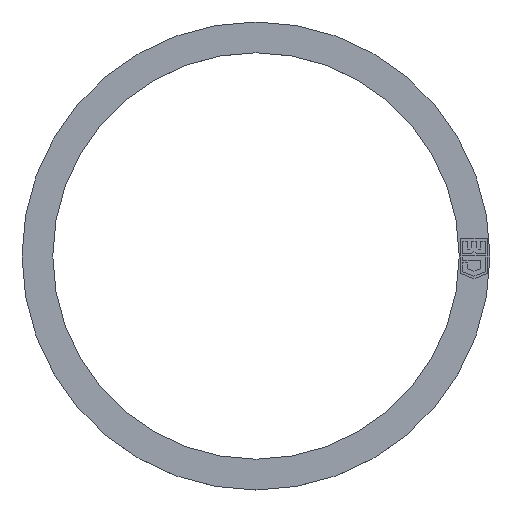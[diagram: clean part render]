
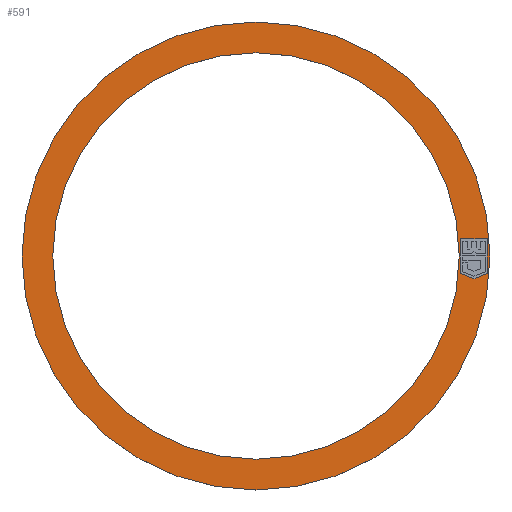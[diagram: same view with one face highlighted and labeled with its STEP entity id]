
A CAD part, top view. The second image highlights one B-rep face of the part: STEP entity #591.
In plain terms, the highlighted planar face has unit normal (0, 0, 1).
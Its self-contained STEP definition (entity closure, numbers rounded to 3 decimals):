
#561 = ORIENTED_EDGE ( 'NONE', *, *, #619, .T. ) ;
#562 = EDGE_CURVE ( 'NONE', #593, #615, #1078, .T. ) ;
#563 = EDGE_LOOP ( 'NONE', ( #592, #565 ) ) ;
#565 = ORIENTED_EDGE ( 'NONE', *, *, #603, .T. ) ;
#566 = EDGE_CURVE ( 'NONE', #613, #601, #1073, .T. ) ;
#568 = EDGE_LOOP ( 'NONE', ( #622, #569 ) ) ;
#569 = ORIENTED_EDGE ( 'NONE', *, *, #618, .F. ) ;
#574 = VERTEX_POINT ( 'NONE', #1125 ) ;
#578 = ORIENTED_EDGE ( 'NONE', *, *, #579, .T. ) ;
#579 = EDGE_CURVE ( 'NONE', #574, #621, #1105, .T. ) ;
#580 = ORIENTED_EDGE ( 'NONE', *, *, #583, .T. ) ;
#583 = EDGE_CURVE ( 'NONE', #615, #585, #1101, .T. ) ;
#585 = VERTEX_POINT ( 'NONE', #1175 ) ;
#591 = ADVANCED_FACE ( 'NONE', ( #1086, #1082, #1081 ), #1080, .T. ) ;
#592 = ORIENTED_EDGE ( 'NONE', *, *, #566, .T. ) ;
#593 = VERTEX_POINT ( 'NONE', #1089 ) ;
#601 = VERTEX_POINT ( 'NONE', #1143 ) ;
#603 = EDGE_CURVE ( 'NONE', #601, #613, #1100, .T. ) ;
#607 = EDGE_CURVE ( 'NONE', #608, #609, #1094, .T. ) ;
#608 = VERTEX_POINT ( 'NONE', #1065 ) ;
#609 = VERTEX_POINT ( 'NONE', #1064 ) ;
#613 = VERTEX_POINT ( 'NONE', #1162 ) ;
#615 = VERTEX_POINT ( 'NONE', #1161 ) ;
#617 = EDGE_LOOP ( 'NONE', ( #561, #620, #580, #641, #578 ) ) ;
#618 = EDGE_CURVE ( 'NONE', #609, #608, #1159, .T. ) ;
#619 = EDGE_CURVE ( 'NONE', #621, #593, #1198, .T. ) ;
#620 = ORIENTED_EDGE ( 'NONE', *, *, #562, .T. ) ;
#621 = VERTEX_POINT ( 'NONE', #1194 ) ;
#622 = ORIENTED_EDGE ( 'NONE', *, *, #607, .F. ) ;
#641 = ORIENTED_EDGE ( 'NONE', *, *, #658, .T. ) ;
#658 = EDGE_CURVE ( 'NONE', #585, #574, #1226, .T. ) ;
#1064 = CARTESIAN_POINT ( 'NONE',  ( 16.5, 0., 0.8 ) ) ;
#1065 = CARTESIAN_POINT ( 'NONE',  ( -16.5, 0., 0.8 ) ) ;
#1066 = DIRECTION ( 'NONE',  ( 1., 0., 0. ) ) ;
#1067 = DIRECTION ( 'NONE',  ( 0., 0., 1. ) ) ;
#1068 = CARTESIAN_POINT ( 'NONE',  ( 0., 0., 0.8 ) ) ;
#1069 = AXIS2_PLACEMENT_3D ( 'NONE', #1068, #1067, #1066 ) ;
#1071 = CARTESIAN_POINT ( 'NONE',  ( 0., 0., 0.8 ) ) ;
#1072 = AXIS2_PLACEMENT_3D ( 'NONE', #1071, #1135, #1134 ) ;
#1073 = CIRCLE ( 'NONE', #1072, 19. ) ;
#1078 = LINE ( 'NONE', #1182, #1181 ) ;
#1080 = PLANE ( 'NONE',  #1093 ) ;
#1081 = FACE_BOUND ( 'NONE', #617, .T. ) ;
#1082 = FACE_OUTER_BOUND ( 'NONE', #563, .T. ) ;
#1086 = FACE_BOUND ( 'NONE', #568, .T. ) ;
#1089 = CARTESIAN_POINT ( 'NONE',  ( 17.7, -1.847, 0.8 ) ) ;
#1090 = DIRECTION ( 'NONE',  ( 1., 0., 0. ) ) ;
#1091 = DIRECTION ( 'NONE',  ( 0., 0., 1. ) ) ;
#1092 = CARTESIAN_POINT ( 'NONE',  ( 0., 0., 0.8 ) ) ;
#1093 = AXIS2_PLACEMENT_3D ( 'NONE', #1092, #1091, #1090 ) ;
#1094 = CIRCLE ( 'NONE', #1069, 16.5 ) ;
#1096 = DIRECTION ( 'NONE',  ( 1., 0., 0. ) ) ;
#1097 = DIRECTION ( 'NONE',  ( 0., 0., 1. ) ) ;
#1098 = CARTESIAN_POINT ( 'NONE',  ( 0., 0., 0.8 ) ) ;
#1099 = AXIS2_PLACEMENT_3D ( 'NONE', #1098, #1097, #1096 ) ;
#1100 = CIRCLE ( 'NONE', #1099, 19. ) ;
#1101 = LINE ( 'NONE', #1178, #1177 ) ;
#1102 = DIRECTION ( 'NONE',  ( 0., -1., 0. ) ) ;
#1103 = VECTOR ( 'NONE', #1102, 1000. ) ;
#1104 = CARTESIAN_POINT ( 'NONE',  ( 18.795, 1.393, 0.8 ) ) ;
#1105 = LINE ( 'NONE', #1104, #1103 ) ;
#1125 = CARTESIAN_POINT ( 'NONE',  ( 18.795, 1.393, 0.8 ) ) ;
#1134 = DIRECTION ( 'NONE',  ( 1., 0., 0. ) ) ;
#1135 = DIRECTION ( 'NONE',  ( 0., 0., 1. ) ) ;
#1143 = CARTESIAN_POINT ( 'NONE',  ( 19., 0., 0.8 ) ) ;
#1155 = DIRECTION ( 'NONE',  ( 1., 0., 0. ) ) ;
#1156 = DIRECTION ( 'NONE',  ( 0., 0., 1. ) ) ;
#1157 = CARTESIAN_POINT ( 'NONE',  ( 0., 0., 0.8 ) ) ;
#1158 = AXIS2_PLACEMENT_3D ( 'NONE', #1157, #1156, #1155 ) ;
#1159 = CIRCLE ( 'NONE', #1158, 16.5 ) ;
#1161 = CARTESIAN_POINT ( 'NONE',  ( 16.605, -1.393, 0.8 ) ) ;
#1162 = CARTESIAN_POINT ( 'NONE',  ( -19., 0., 0.8 ) ) ;
#1175 = CARTESIAN_POINT ( 'NONE',  ( 16.605, 1.393, 0.8 ) ) ;
#1176 = DIRECTION ( 'NONE',  ( 0., 1., 0. ) ) ;
#1177 = VECTOR ( 'NONE', #1176, 1000. ) ;
#1178 = CARTESIAN_POINT ( 'NONE',  ( 16.605, -1.393, 0.8 ) ) ;
#1180 = DIRECTION ( 'NONE',  ( -0.924, 0.383, 0. ) ) ;
#1181 = VECTOR ( 'NONE', #1180, 1000. ) ;
#1182 = CARTESIAN_POINT ( 'NONE',  ( 17.7, -1.847, 0.8 ) ) ;
#1194 = CARTESIAN_POINT ( 'NONE',  ( 18.795, -1.393, 0.8 ) ) ;
#1195 = DIRECTION ( 'NONE',  ( -0.924, -0.383, 0. ) ) ;
#1196 = VECTOR ( 'NONE', #1195, 1000. ) ;
#1197 = CARTESIAN_POINT ( 'NONE',  ( 17.7, -1.847, 0.8 ) ) ;
#1198 = LINE ( 'NONE', #1197, #1196 ) ;
#1223 = DIRECTION ( 'NONE',  ( 1., 0., 0. ) ) ;
#1224 = VECTOR ( 'NONE', #1223, 1000. ) ;
#1225 = CARTESIAN_POINT ( 'NONE',  ( 16.605, 1.393, 0.8 ) ) ;
#1226 = LINE ( 'NONE', #1225, #1224 ) ;
